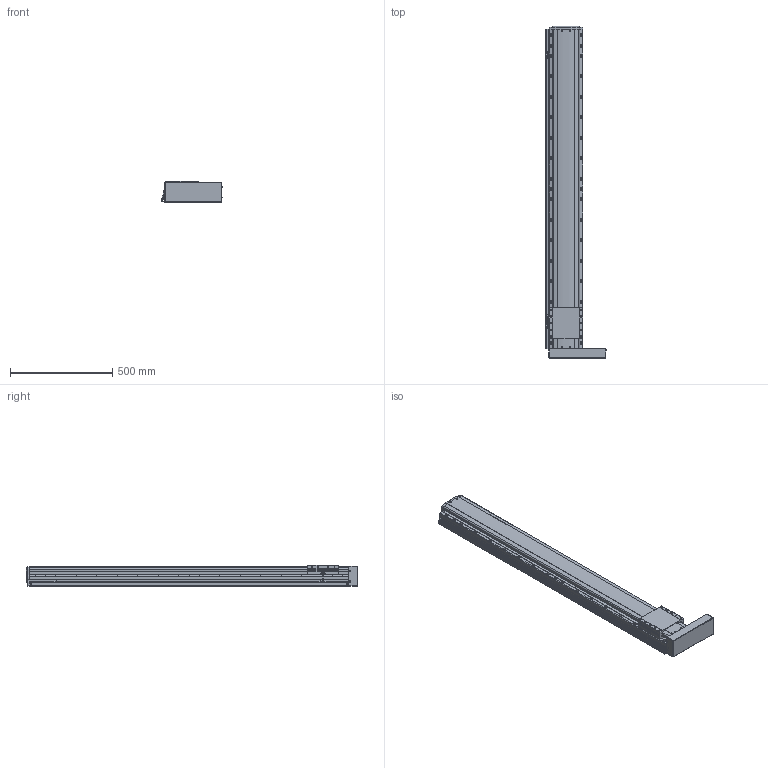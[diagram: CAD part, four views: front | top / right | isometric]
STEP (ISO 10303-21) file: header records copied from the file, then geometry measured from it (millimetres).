
FILE_DESCRIPTION(('STEP AP214'),'1');
FILE_NAME('Z:/Web/3D/PSA165/STP/PSA165-1300 (3D)/PSA165ㅁㅁ-1300PR+3SL.stp','2014-06-24T10:41:39',(' '),(' '),'Spatial InterOp 3D',' ',' ');
FILE_SCHEMA(('automotive_design'));
Length unit declared in the file: millimetre
Products named in the file (41): 스크루 : Round - M4.0 x 12.0; RRCV-PA160; BASE; 스크루 : Round - M4.0 x 10.0; RN15; Screw 20; SLIDE; FRCV; MTPL; 스크루 : Round - M3.0 x 6.0; M3.0 x 6.0; SRL-16x17-360L; SGD-SAN150; EE-SX674; SBK-SX674-352; BHCS M4.0 x 10.0
Bounding box: 294.46 x 1620.8 x 104 mm (x, y, z)
Volume: 22913631.8 mm3; surface area: 1542371.3 mm2
Topology: 41 solids, 41 shells, 2668 faces, 7165 edges, 4589 vertices
Faces by surface type: plane 1475, cylinder 847, cone 241, sphere 64, bspline 25, torus 16
Entity records: 108433 total; most frequent: CARTESIAN_POINT 18913, DIRECTION 14263, ORIENTED_EDGE 13990, EDGE_CURVE 6995, AXIS2_PLACEMENT_3D 4833, LINE 4597, VECTOR 4597, VERTEX_POINT 4589
